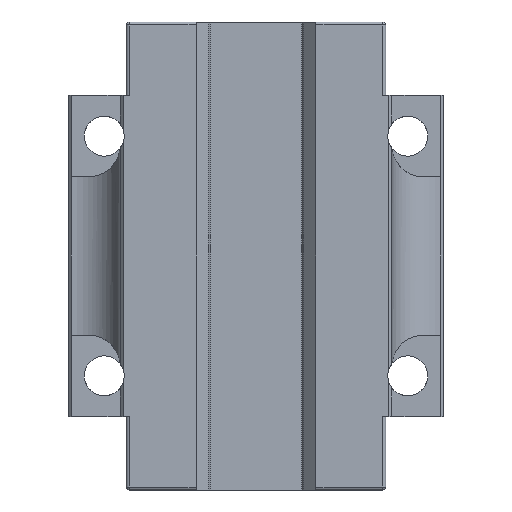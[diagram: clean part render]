
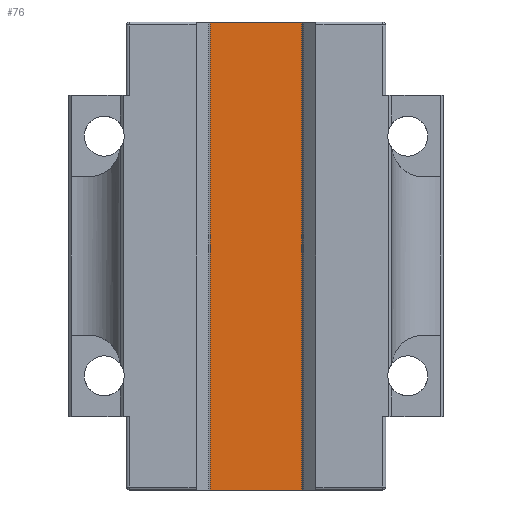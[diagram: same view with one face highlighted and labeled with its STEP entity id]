
A CAD part, front view. The second image highlights one B-rep face of the part: STEP entity #76.
In plain terms, the highlighted planar face has unit normal (0, -1, 0).
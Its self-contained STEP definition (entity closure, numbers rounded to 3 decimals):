
#18 = CARTESIAN_POINT ( 'NONE',  ( 6.75, 13., 29.3 ) ) ;
#76 = ADVANCED_FACE ( 'NONE', ( #1835 ), #2652, .F. ) ;
#84 = LINE ( 'NONE', #18, #449 ) ;
#159 = CARTESIAN_POINT ( 'NONE',  ( -6.75, 13., 29.3 ) ) ;
#197 = ORIENTED_EDGE ( 'NONE', *, *, #1608, .F. ) ;
#449 = VECTOR ( 'NONE', #2589, 1000. ) ;
#540 = DIRECTION ( 'NONE',  ( -1., 0., 0. ) ) ;
#648 = VECTOR ( 'NONE', #540, 1000. ) ;
#740 = CARTESIAN_POINT ( 'NONE',  ( 6.75, 13., -29.3 ) ) ;
#1038 = CARTESIAN_POINT ( 'NONE',  ( -7.5, 13., -29.3 ) ) ;
#1055 = EDGE_CURVE ( 'NONE', #1508, #3051, #84, .T. ) ;
#1153 = VECTOR ( 'NONE', #1198, 1000. ) ;
#1198 = DIRECTION ( 'NONE',  ( -1., 0., 0. ) ) ;
#1225 = ORIENTED_EDGE ( 'NONE', *, *, #2472, .T. ) ;
#1332 = LINE ( 'NONE', #2596, #1367 ) ;
#1360 = CARTESIAN_POINT ( 'NONE',  ( -7.5, 13., -29.3 ) ) ;
#1367 = VECTOR ( 'NONE', #3137, 1000. ) ;
#1483 = LINE ( 'NONE', #1038, #648 ) ;
#1508 = VERTEX_POINT ( 'NONE', #740 ) ;
#1608 = EDGE_CURVE ( 'NONE', #1508, #2586, #1483, .T. ) ;
#1662 = ORIENTED_EDGE ( 'NONE', *, *, #1055, .T. ) ;
#1795 = CARTESIAN_POINT ( 'NONE',  ( 6.75, 13., 29.3 ) ) ;
#1806 = AXIS2_PLACEMENT_3D ( 'NONE', #1360, #2348, #1871 ) ;
#1835 = FACE_OUTER_BOUND ( 'NONE', #2948, .T. ) ;
#1871 = DIRECTION ( 'NONE',  ( 0., 0., 1. ) ) ;
#2127 = ORIENTED_EDGE ( 'NONE', *, *, #2129, .T. ) ;
#2129 = EDGE_CURVE ( 'NONE', #3051, #2701, #3200, .T. ) ;
#2343 = CARTESIAN_POINT ( 'NONE',  ( -6.75, 13., -29.3 ) ) ;
#2348 = DIRECTION ( 'NONE',  ( 0., 1., 0. ) ) ;
#2470 = CARTESIAN_POINT ( 'NONE',  ( -7.5, 13., 29.3 ) ) ;
#2472 = EDGE_CURVE ( 'NONE', #2701, #2586, #1332, .T. ) ;
#2586 = VERTEX_POINT ( 'NONE', #2343 ) ;
#2589 = DIRECTION ( 'NONE',  ( 0., 0., 1. ) ) ;
#2596 = CARTESIAN_POINT ( 'NONE',  ( -6.75, 13., -29.3 ) ) ;
#2652 = PLANE ( 'NONE',  #1806 ) ;
#2701 = VERTEX_POINT ( 'NONE', #159 ) ;
#2948 = EDGE_LOOP ( 'NONE', ( #197, #1662, #2127, #1225 ) ) ;
#3051 = VERTEX_POINT ( 'NONE', #1795 ) ;
#3137 = DIRECTION ( 'NONE',  ( 0., 0., -1. ) ) ;
#3200 = LINE ( 'NONE', #2470, #1153 ) ;
